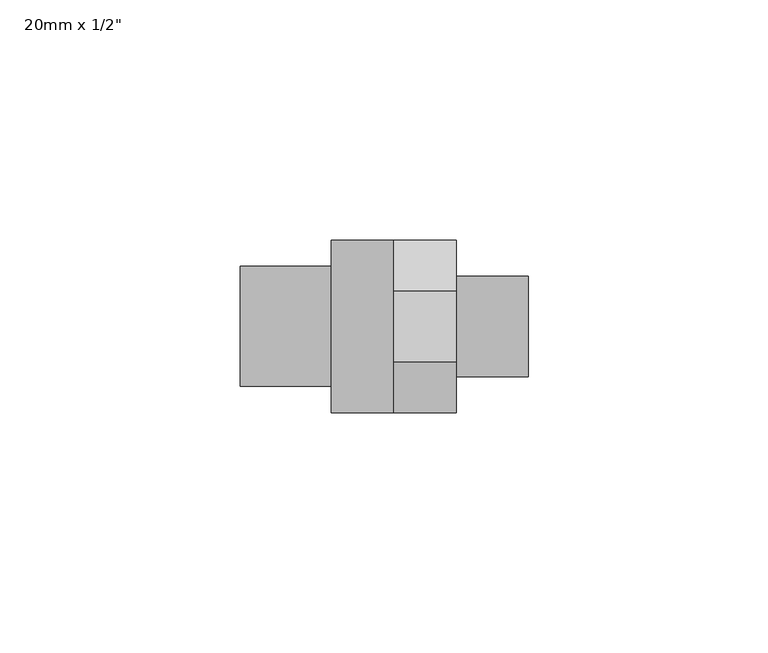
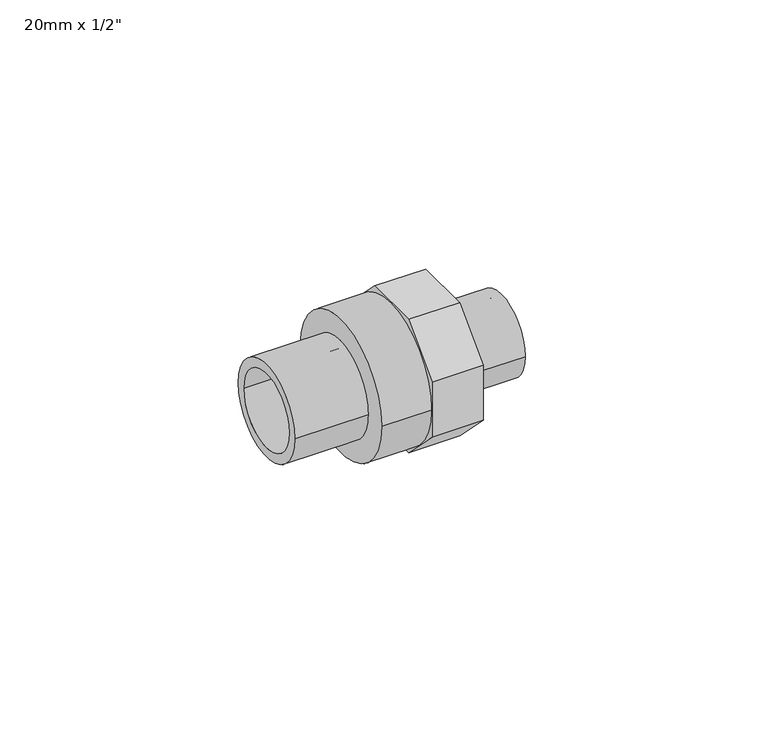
"""IFC4 building model written with IfcOpenShell, lengths in millimetres: pipe fitting geometry."""

from ifc_helpers import new_model, si_unit, point, frame, origin, origin_2d, place, context, project, spatial, polyline, circle_curve, trimmed, segment, composite_curve, outline, extrude, source, transform, mapped, element, save


def pipe_fitting_6ce85c79(model_context):
    return source(origin(), model_context, "Body", "SweptSolid", [
        extrude(outline(composite_curve([segment(trimmed(circle_curve(origin_2d(), 10.5), [point((-10.5, 0.0))], [point((10.5, 0.0))], False, "CARTESIAN"), True, "CONTINUOUS"), segment(trimmed(circle_curve(origin_2d(), 10.5), [point((10.5, 0.0))], [point((-10.5, 0.0))], False, "CARTESIAN"), True, "CONTINUOUS")], self_intersect=False), holes=[composite_curve([segment(trimmed(circle_curve(origin_2d(), 8.0), [point((-8.0, 0.0))], [point((8.0, 0.0))], True, "CARTESIAN"), True, "CONTINUOUS"), segment(trimmed(circle_curve(origin_2d(), 8.0), [point((8.0, 0.0))], [point((-8.0, 0.0))], True, "CARTESIAN"), True, "CONTINUOUS")], self_intersect=False)]), frame((15.0, 0.0, 0.0), z_axis=(1.0, 0.0, 0.0), x_axis=(0.0, 1.0, 0.0)), (0.0, 0.0, 1.0), 15.0),
        extrude(outline(polyline([(7.4558441, 18.0), (18.0, 7.4558441), (18.0, -7.4558441), (7.4558441, -18.0), (-7.4558441, -18.0), (-18.0, -7.4558441), (-18.0, 7.4558441), (-7.4558441, 18.0), (7.4558441, 18.0)]), holes=[composite_curve([segment(trimmed(circle_curve(origin_2d(), 8.0), [point((-8.0, 0.0))], [point((8.0, 0.0))], True, "CARTESIAN"), True, "CONTINUOUS"), segment(trimmed(circle_curve(origin_2d(), 8.0), [point((8.0, 0.0))], [point((-8.0, 0.0))], True, "CARTESIAN"), True, "CONTINUOUS")], self_intersect=False)]), frame((2.0, 0.0, 0.0), z_axis=(1.0, 0.0, 0.0), x_axis=(0.0, 1.0, 0.0)), (0.0, 0.0, 1.0), 13.0),
        extrude(outline(composite_curve([segment(trimmed(circle_curve(origin_2d(), 18.0), [point((-18.0, 0.0))], [point((18.0, 0.0))], False, "CARTESIAN"), True, "CONTINUOUS"), segment(trimmed(circle_curve(origin_2d(), 18.0), [point((18.0, 0.0))], [point((-18.0, 0.0))], False, "CARTESIAN"), True, "CONTINUOUS")], self_intersect=False), holes=[composite_curve([segment(trimmed(circle_curve(origin_2d(), 8.0), [point((-8.0, 0.0))], [point((8.0, 0.0))], True, "CARTESIAN"), True, "CONTINUOUS"), segment(trimmed(circle_curve(origin_2d(), 8.0), [point((8.0, 0.0))], [point((-8.0, 0.0))], True, "CARTESIAN"), True, "CONTINUOUS")], self_intersect=False)]), frame((-11.0, 0.0, 0.0), z_axis=(1.0, 0.0, 0.0), x_axis=(0.0, 1.0, 0.0)), (0.0, 0.0, 1.0), 13.0),
        extrude(outline(composite_curve([segment(trimmed(circle_curve(origin_2d(), 12.5), [point((-12.5, 0.0))], [point((12.5, 0.0))], False, "CARTESIAN"), True, "CONTINUOUS"), segment(trimmed(circle_curve(origin_2d(), 12.5), [point((12.5, 0.0))], [point((-12.5, 0.0))], False, "CARTESIAN"), True, "CONTINUOUS")], self_intersect=False), holes=[composite_curve([segment(trimmed(circle_curve(origin_2d(), 10.0), [point((-10.0, 0.0))], [point((10.0, 0.0))], True, "CARTESIAN"), True, "CONTINUOUS"), segment(trimmed(circle_curve(origin_2d(), 10.0), [point((10.0, 0.0))], [point((-10.0, 0.0))], True, "CARTESIAN"), True, "CONTINUOUS")], self_intersect=False)]), frame((-30.0, 0.0, 0.0), z_axis=(1.0, 0.0, 0.0), x_axis=(0.0, 1.0, 0.0)), (0.0, 0.0, 1.0), 19.0),
    ])


if __name__ == "__main__":
    model = new_model("IFC4")
    model_context = context("Model", 3, world=origin())
    ifc_project = project(units=[si_unit("LENGTHUNIT", "METRE", prefix="MILLI")], contexts=[model_context])
    site = spatial("IfcSite", under=ifc_project)
    building = spatial("IfcBuilding", under=site)
    placement = place(None, origin())
    pipe_fitting_shape = pipe_fitting_6ce85c79(model_context)
    element("IfcPipeFitting", 1, ObjectType="PipeFitting_HTA_CPVC_AdaptorNipplesA : 20mm x 1/2\"", at=placement, inside=building, context=model_context, shape_type="MappedRepresentation", body=[
        mapped(pipe_fitting_shape, transform((0.0, 0.0, 0.0), x_axis=(1.0, 0.0, 0.0), y_axis=(0.0, 1.0, 0.0), z_axis=(0.0, 0.0, 1.0))),
    ])
    save(model, "model.ifc")
